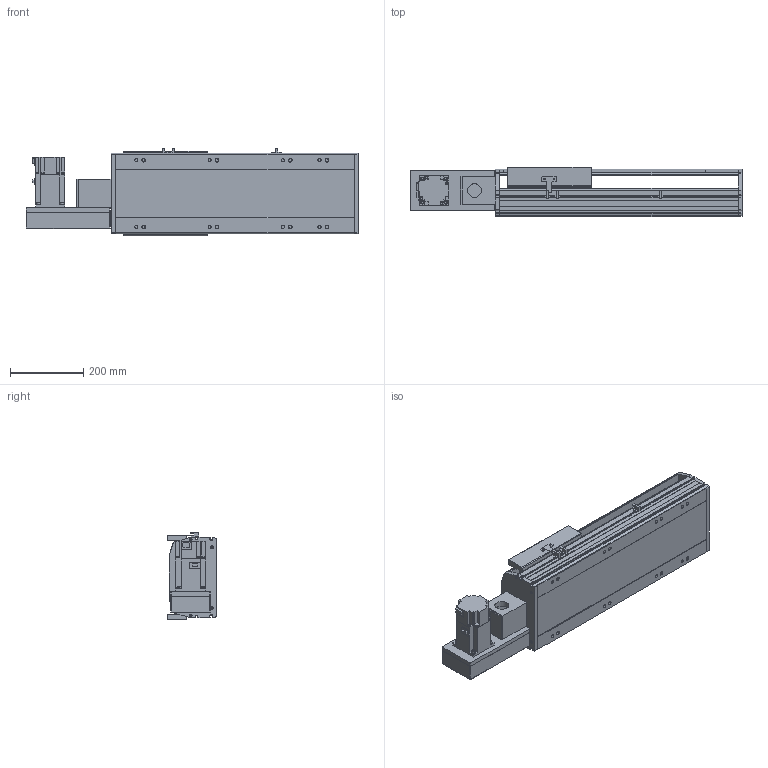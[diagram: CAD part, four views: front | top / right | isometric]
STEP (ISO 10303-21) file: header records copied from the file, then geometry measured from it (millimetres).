
FILE_DESCRIPTION(/* description */ ('STEP AP214'),/* implementation_level */ '2;1');
FILE_NAME(/* name */ 'PBS220-P40-S300-L-T75-C1-N(0)',/* time_stamp */ '2022-06-11T09:54:35+02:00',/* author */ ('License CC BY-ND 4.0'),/* organization */ ('CADENAS'),/* preprocessor_version */ 'ST-DEVELOPER v18.102',/* originating_system */ 'PARTsolutions',/* authorisation */ ' ');
FILE_SCHEMA (('AUTOMOTIVE_DESIGN {1 0 10303 214 3 1 1}'));
Length unit declared in the file: millimetre
Products named in the file (7): PBS220-P40-S300-L-T75-C1-N(0); PBS220_sensor; PBS220_plant; PBS220_sliser; T75-p1; PBS220T-L_motors; PBS220-S300()_body
Assembly tree (8 placements, depth 2):
  PBS220-P40-S300-L-T75-C1-N(0)
    PBS220_sensor  x3
    PBS220_plant
    PBS220_sliser
    T75-p1
    PBS220T-L_motors
    PBS220-S300()_body
Bounding box: 906 x 134 x 238.5 mm (x, y, z)
Volume: 12028838.6 mm3; surface area: 1298482.5 mm2
Topology: 8 solids, 8 shells, 866 faces, 2284 edges, 1486 vertices
Faces by surface type: plane 582, cylinder 252, cone 32
Full cylindrical faces by diameter (mm): 2.013 x4, 4.5 x14, 4.917 x4, 6 x7, 6.647 x8, 8 x10, 8.376 x8, 8.5 x8, 10 x6, 14 x8, 38 x2, 40 x1, 70 x1
Entity records: 24381 total; most frequent: DIRECTION 4239, CARTESIAN_POINT 4228, ORIENTED_EDGE 3962, EDGE_CURVE 1981, AXIS2_PLACEMENT_3D 1451, VERTEX_POINT 1352, LINE 1337, VECTOR 1337
